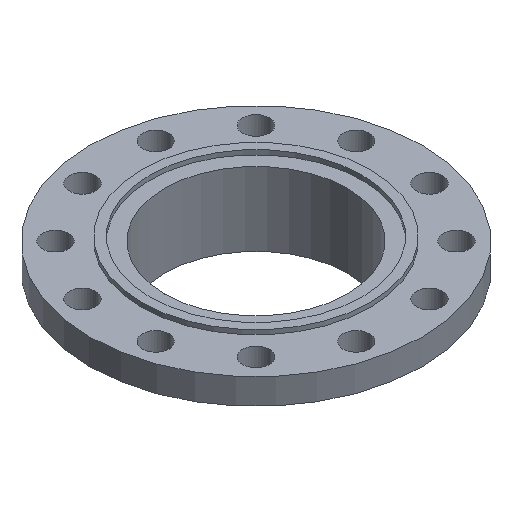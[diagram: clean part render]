
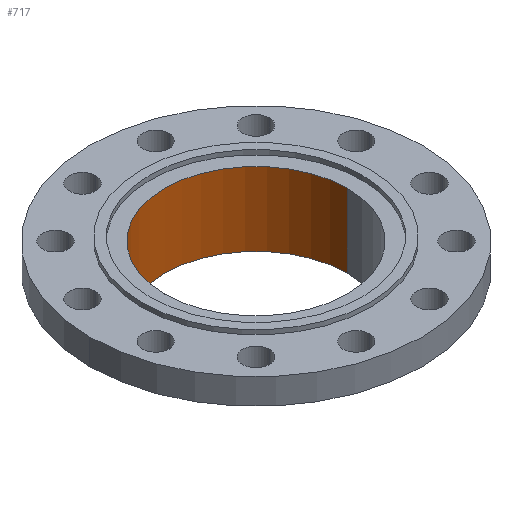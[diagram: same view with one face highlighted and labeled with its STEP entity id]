
A CAD part, isometric view. The second image highlights one B-rep face of the part: STEP entity #717.
In plain terms, the highlighted cylindrical face has radius 103.25 mm (diameter 206.5 mm), a partial arc.
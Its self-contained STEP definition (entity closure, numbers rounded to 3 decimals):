
#44 = CARTESIAN_POINT ( 'NONE',  ( 103.25, 0., -98. ) ) ;
#121 = AXIS2_PLACEMENT_3D ( 'NONE', #397, #893, #1245 ) ;
#183 = DIRECTION ( 'NONE',  ( 0., 0., -1. ) ) ;
#193 = EDGE_CURVE ( 'NONE', #462, #407, #451, .T. ) ;
#253 = CARTESIAN_POINT ( 'NONE',  ( -103.25, 0., -5. ) ) ;
#263 = EDGE_LOOP ( 'NONE', ( #455, #457, #458, #463 ) ) ;
#331 = DIRECTION ( 'NONE',  ( 0., 0., -1. ) ) ;
#333 = FACE_OUTER_BOUND ( 'NONE', #263, .T. ) ;
#397 = CARTESIAN_POINT ( 'NONE',  ( 0., 0., -88. ) ) ;
#407 = VERTEX_POINT ( 'NONE', #702 ) ;
#451 = LINE ( 'NONE', #932, #948 ) ;
#454 = VECTOR ( 'NONE', #635, 1000. ) ;
#455 = ORIENTED_EDGE ( 'NONE', *, *, #727, .F. ) ;
#456 = AXIS2_PLACEMENT_3D ( 'NONE', #1217, #183, #770 ) ;
#457 = ORIENTED_EDGE ( 'NONE', *, *, #1006, .F. ) ;
#458 = ORIENTED_EDGE ( 'NONE', *, *, #193, .T. ) ;
#462 = VERTEX_POINT ( 'NONE', #253 ) ;
#463 = ORIENTED_EDGE ( 'NONE', *, *, #1196, .T. ) ;
#518 = VERTEX_POINT ( 'NONE', #1093 ) ;
#635 = DIRECTION ( 'NONE',  ( 0., 0., -1. ) ) ;
#702 = CARTESIAN_POINT ( 'NONE',  ( -103.25, 0., -88. ) ) ;
#717 = ADVANCED_FACE ( 'NONE', ( #333 ), #862, .F. ) ;
#727 = EDGE_CURVE ( 'NONE', #1487, #518, #1133, .T. ) ;
#770 = DIRECTION ( 'NONE',  ( -1., 0., 0. ) ) ;
#771 = CIRCLE ( 'NONE', #775, 103.25 ) ;
#775 = AXIS2_PLACEMENT_3D ( 'NONE', #1288, #331, #861 ) ;
#861 = DIRECTION ( 'NONE',  ( 1., 0., 0. ) ) ;
#862 = CYLINDRICAL_SURFACE ( 'NONE', #456, 103.25 ) ;
#893 = DIRECTION ( 'NONE',  ( 0., 0., -1. ) ) ;
#932 = CARTESIAN_POINT ( 'NONE',  ( -103.25, 0., -98. ) ) ;
#948 = VECTOR ( 'NONE', #1280, 1000. ) ;
#1006 = EDGE_CURVE ( 'NONE', #462, #1487, #771, .T. ) ;
#1093 = CARTESIAN_POINT ( 'NONE',  ( 103.25, 0., -88. ) ) ;
#1133 = LINE ( 'NONE', #44, #454 ) ;
#1196 = EDGE_CURVE ( 'NONE', #407, #518, #1412, .T. ) ;
#1217 = CARTESIAN_POINT ( 'NONE',  ( 0., 0., -98. ) ) ;
#1245 = DIRECTION ( 'NONE',  ( -1., 0., 0. ) ) ;
#1280 = DIRECTION ( 'NONE',  ( 0., 0., -1. ) ) ;
#1288 = CARTESIAN_POINT ( 'NONE',  ( 0., 0., -5. ) ) ;
#1382 = CARTESIAN_POINT ( 'NONE',  ( 103.25, 0., -5. ) ) ;
#1412 = CIRCLE ( 'NONE', #121, 103.25 ) ;
#1487 = VERTEX_POINT ( 'NONE', #1382 ) ;
